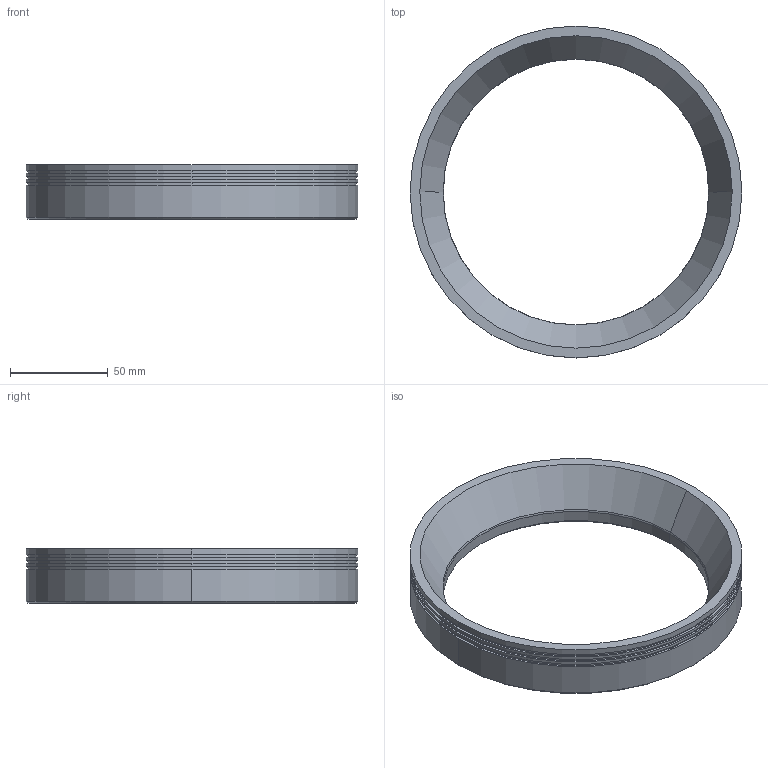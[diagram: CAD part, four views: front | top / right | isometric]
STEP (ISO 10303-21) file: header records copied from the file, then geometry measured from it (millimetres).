
FILE_DESCRIPTION((''),'2;1');
FILE_NAME('DRL7030','2020-03-28T',('ASUS'),(''),'PRO/ENGINEER BY PARAMETRIC TECHNOLOGY CORPORATION, 2008380','PRO/ENGINEER BY PARAMETRIC TECHNOLOGY CORPORATION, 2008380','');
FILE_SCHEMA(('CONFIG_CONTROL_DESIGN'));
Length unit declared in the file: millimetre
Products named in the file (1): DRL7030
Bounding box: 170 x 170 x 28 mm (x, y, z)
Volume: 169336.4 mm3; surface area: 42986.6 mm2
Topology: 1 solids, 5 shells, 68 faces, 152 edges, 92 vertices
Faces by surface type: cylinder 32, cone 22, plane 12, torus 2
Entity records: 1901 total; most frequent: DIRECTION 372, CARTESIAN_POINT 305, ORIENTED_EDGE 272, AXIS2_PLACEMENT_3D 159, EDGE_CURVE 144, VERTEX_POINT 92, CIRCLE 90, EDGE_LOOP 84
